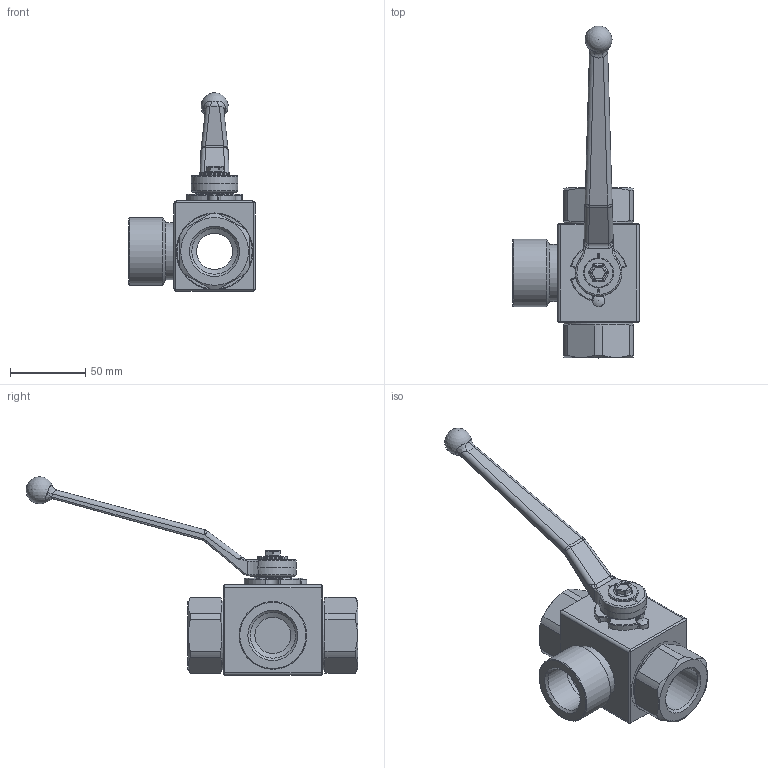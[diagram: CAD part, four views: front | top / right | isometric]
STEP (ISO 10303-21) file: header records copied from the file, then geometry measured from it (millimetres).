
FILE_DESCRIPTION( ( 'Unknown' ), '1' );
FILE_NAME( 'H:/PISTER/3D-MODELLE/BK3 stp/BK3 DN25 G1.stp', 'Unknown', ( 'Unknown' ), ( 'Unknown' ), 'PSStep 14.0', 'Unknown', ' ' );
FILE_SCHEMA( ( 'AUTOMOTIVE_DESIGN { 1 0 10303 214 1 1 1 1 }' ) );
Length unit declared in the file: millimetre
Products named in the file (11): Assem1; 10-025-001; 03-025-001-oa3; 04-025-148-oa4; 06-025-186-oa9; 09-14-001; 58-28740-13-oa10; Griff_SW14; 58-0933-147; 01-025-024-oa11; 04-025-057-oa12
Assembly tree (10 placements, depth 2):
  Assem1
    10-025-001
    03-025-001-oa3
    04-025-148-oa4
    06-025-186-oa9
    09-14-001
    58-28740-13-oa10
    Griff_SW14
    58-0933-147
    01-025-024-oa11
    04-025-057-oa12
Bounding box: 84 x 220.38 x 131.9 mm (x, y, z)
Volume: 128594.5 mm3; surface area: 73554.9 mm2
Topology: 10 solids, 10 shells, 370 faces, 922 edges, 561 vertices
Faces by surface type: cylinder 128, plane 126, torus 40, cone 34, bspline 28, sphere 14
Full cylindrical faces by diameter (mm): 5 x1, 6 x1, 6.5 x1, 7.98 x1, 20 x3, 20.2 x1, 24 x3, 25 x1, 30.29 x2, 30.291 x2, 37.9 x1, 38 x1, 43.3 x2, 45 x1, 46 x2, 50 x2, 51 x2
Entity records: 15118 total; most frequent: CARTESIAN_POINT 3663, DIRECTION 1815, ORIENTED_EDGE 1638, EDGE_CURVE 819, AXIS2_PLACEMENT_3D 743, VERTEX_POINT 532, EDGE_LOOP 452, FACE_OUTER_BOUND 406
